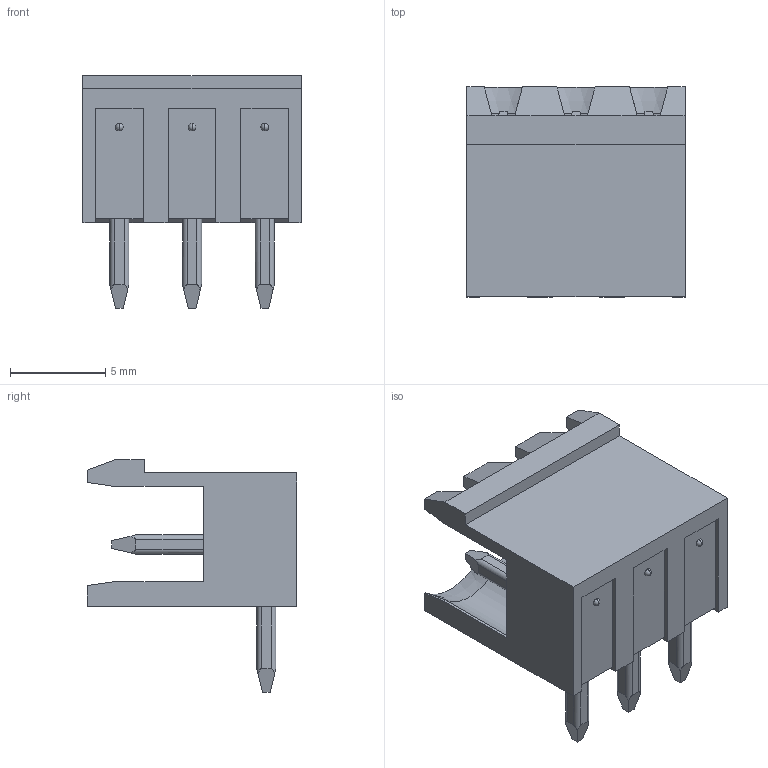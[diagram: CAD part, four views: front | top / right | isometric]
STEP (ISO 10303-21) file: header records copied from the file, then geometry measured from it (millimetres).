
FILE_DESCRIPTION((''),'2;1');
FILE_NAME('3','2019-05-08T',('zhenbing.lai'),(''),'CREO PARAMETRIC BY PTC INC, 2016260','CREO PARAMETRIC BY PTC INC, 2016260','');
FILE_SCHEMA(('CONFIG_CONTROL_DESIGN'));
Length unit declared in the file: millimetre
Products named in the file (1): 3
Bounding box: 11.43 x 11 x 12.2 mm (x, y, z)
Volume: 519.8 mm3; surface area: 757.2 mm2
Topology: 1 solids, 1 shells, 147 faces, 405 edges, 263 vertices
Faces by surface type: plane 111, cylinder 27, sphere 6, cone 3
Entity records: 4841 total; most frequent: CARTESIAN_POINT 1154, ORIENTED_EDGE 798, DIRECTION 684, EDGE_CURVE 399, VECTOR 300, LINE 300, VERTEX_POINT 263, AXIS2_PLACEMENT_3D 192
